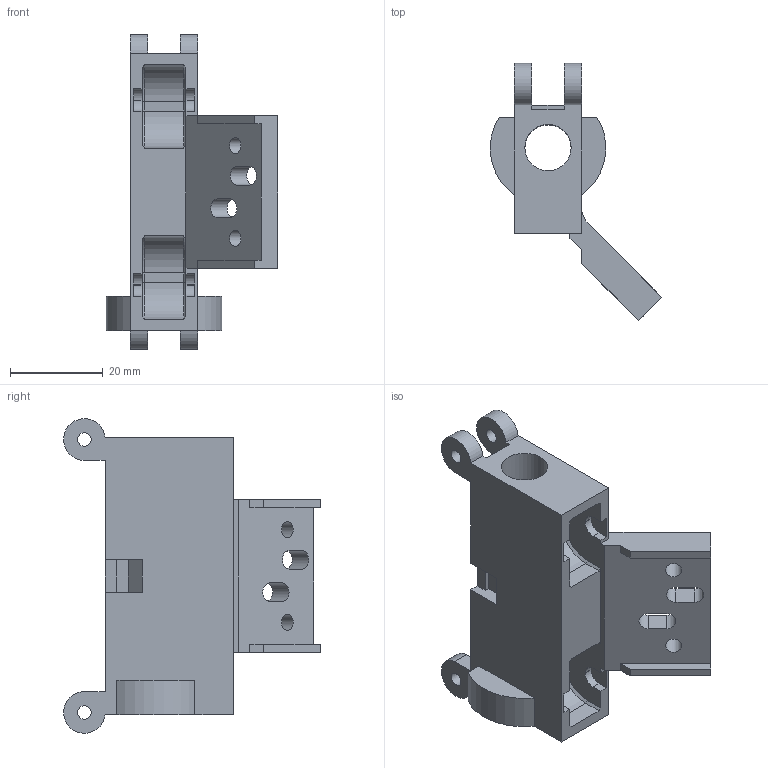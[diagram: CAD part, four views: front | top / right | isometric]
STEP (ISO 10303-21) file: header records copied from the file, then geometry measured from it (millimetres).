
FILE_DESCRIPTION(/* description */ (''),/* implementation_level */ '2;1');
FILE_NAME(/* name */ 'Creality Hi Left Z Roller.step',/* time_stamp */ '2025-11-17T16:59:29-05:00',/* author */ (''),/* organization */ (''),/* preprocessor_version */ 'ST-DEVELOPER v20.1',/* originating_system */ 'Autodesk Translation Framework v14.21.0.0',/* authorisation */ '');
FILE_SCHEMA (('AUTOMOTIVE_DESIGN { 1 0 10303 214 3 1 1 }'));
Length unit declared in the file: millimetre
Products named in the file (1): Creality Hi Scan Remodel
Bounding box: 37.05 x 55.51 x 67.98 mm (x, y, z)
Volume: 20340.5 mm3; surface area: 12495.6 mm2
Topology: 1 solids, 1 shells, 148 faces, 402 edges, 260 vertices
Faces by surface type: plane 104, cylinder 36, cone 8
Full cylindrical faces by diameter (mm): 2.98 x4, 3.5 x2, 4.25 x2, 10 x1
Entity records: 4683 total; most frequent: CARTESIAN_POINT 811, ORIENTED_EDGE 804, DIRECTION 780, EDGE_CURVE 402, LINE 322, VECTOR 322, VERTEX_POINT 260, AXIS2_PLACEMENT_3D 229
